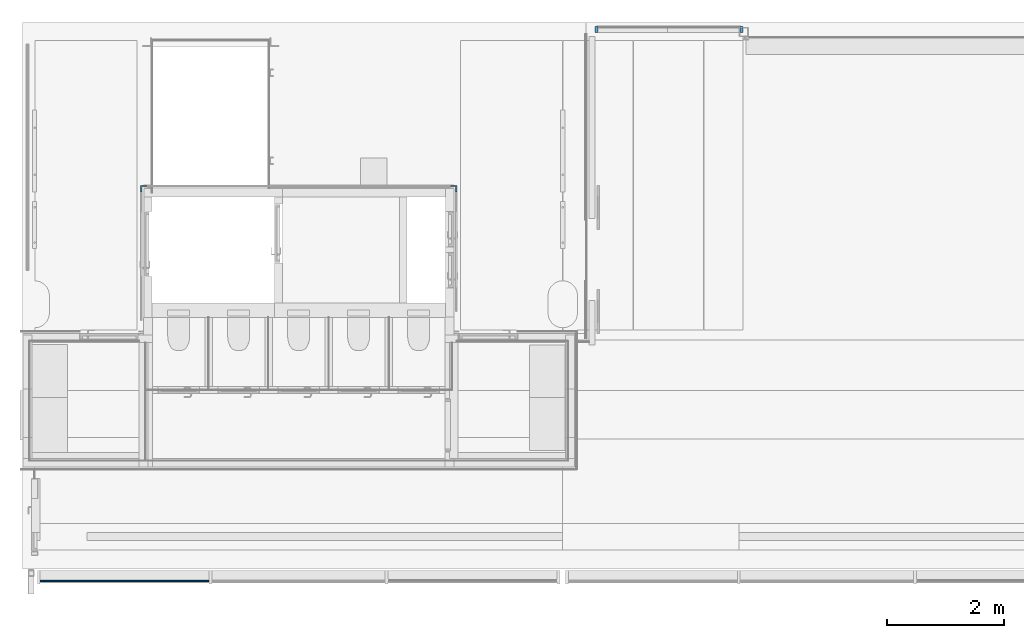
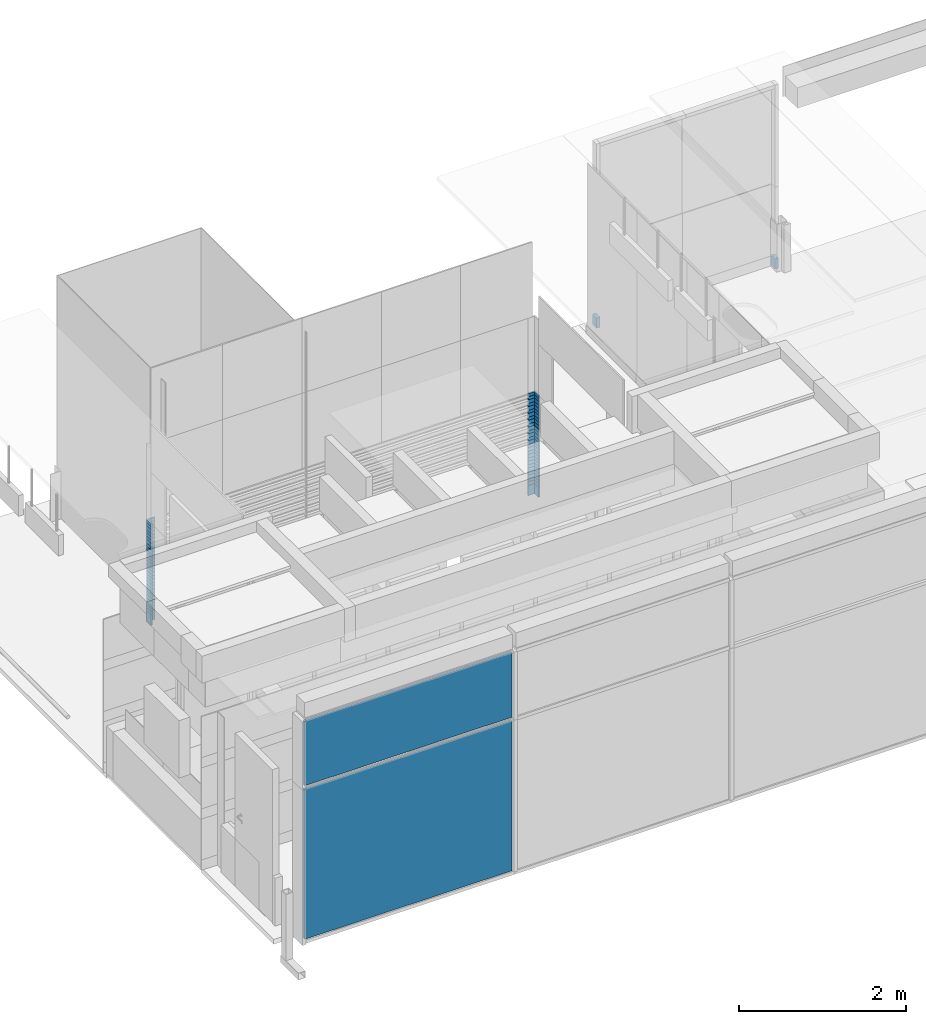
# One storey, part 6 of 26: 58 members, 2 plates, 3 elements without a shape of their own.
"""IFC2X3 building model written with IfcOpenShell, lengths in millimetres."""

from ifc_helpers import new_model, entity, si_unit, converted_unit, derived_unit, direction, frame, origin, origin_with_axes, origin_2d_with_axis, place, context, subcontext, project, spatial, polyline, rectangle, outline, extrude, source, transform, mapped, material, type_object, element, aggregate, save


model = new_model("IFC2X3")

# Units and contexts
model_context = context("Model", 3, precision=0.01, world=frame((0.0, 4.29681676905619e-09, 0.0)), true_north=direction((4.01073788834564e-13, 1.0)))
plan_context = context("Plan", 3, precision=0.01, world=frame((0.0, 4.29681676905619e-09, 0.0)), true_north=direction((4.01073788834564e-13, 1.0)))
body_context = subcontext(model_context, "Body", "Model", "MODEL_VIEW")
ifc_project = project(units=[converted_unit("PLANEANGLEUNIT", "DEGREE", entity("IfcPositiveLengthMeasure", 0.0174532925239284), si_unit("PLANEANGLEUNIT", "RADIAN"), dimensions=[0, 0, 0, 0, 0, 0, 0]), si_unit("AREAUNIT", "SQUARE_METRE"), si_unit("LENGTHUNIT", "METRE", prefix="MILLI"), si_unit("MASSUNIT", "GRAM", prefix="KILO"), si_unit("POWERUNIT", "WATT"), si_unit("PRESSUREUNIT", "PASCAL", prefix="KILO"), si_unit("FORCEUNIT", "NEWTON", prefix="KILO"), si_unit("ELECTRICVOLTAGEUNIT", "VOLT"), si_unit("ELECTRICCURRENTUNIT", "AMPERE"), si_unit("THERMODYNAMICTEMPERATUREUNIT", "DEGREE_CELSIUS"), si_unit("TIMEUNIT", "SECOND"), si_unit("VOLUMEUNIT", "CUBIC_METRE"), derived_unit("LINEARVELOCITYUNIT", [(si_unit("LENGTHUNIT", "METRE"), 1), (si_unit("TIMEUNIT", "SECOND"), -1)]), derived_unit("VOLUMETRICFLOWRATEUNIT", [(si_unit("VOLUMEUNIT", "CUBIC_METRE"), 1), (si_unit("TIMEUNIT", "SECOND"), -1)]), derived_unit("THERMALTRANSMITTANCEUNIT", [(si_unit("POWERUNIT", "WATT"), 1), (si_unit("THERMODYNAMICTEMPERATUREUNIT", "KELVIN"), -1), (si_unit("AREAUNIT", "SQUARE_METRE"), -1)]), derived_unit("SOUNDPRESSUREUNIT", [(si_unit("PRESSUREUNIT", "PASCAL"), 1)])], contexts=[model_context, plan_context])

# Site, building, storey
site_placement = place(None, origin_with_axes())
site = spatial("IfcSite", under=ifc_project, at=site_placement, Name="ENGM", CompositionType="ELEMENT")
building_placement = place(site_placement, origin_with_axes())
building = spatial("IfcBuilding", under=site, at=building_placement, Name="TG", CompositionType="ELEMENT")
storey_placement = place(building_placement, frame((0.0, 0.0, 210200.0), z_axis=(0.0, 0.0, 1.0), x_axis=(1.0, 0.0, 0.0)))
storey = spatial("IfcBuildingStorey", under=building, at=storey_placement, Name="Nivå F - 0,7 m", CompositionType="ELEMENT", Elevation=210200.0)

# Curtain wall, members
curtain_wall_type_1 = type_object("IfcCurtainWallType", Name="Curtain Wall:A245 - BIM av T1 - IMK 20mm - Offset 30mm", PredefinedType="NOTDEFINED")
curtain_wall_1_placement = place(storey_placement, frame((0.0, 0.0, -210200.0), z_axis=(0.0, 0.0, 1.0), x_axis=(1.0, 0.0, 0.0)))
curtain_wall_1 = element("IfcCurtainWall", 1, at=curtain_wall_1_placement, inside=storey, type_object=curtain_wall_type_1, Name="Curtain Wall:A245 - BIM av T1 - IMK 20mm - Offset 30mm", ObjectType="Curtain Wall:A245 - BIM av T1 - IMK 20mm - Offset 30mm")
ifc_material_1 = material(Name="Metal - Steel")
member_type_1 = type_object("IfcMemberType", Name="L Corner Mullion:A233 - Sprosse - 20 x 100 mm", PredefinedType="MULLION", material=ifc_material_1)
shared_shape_1 = source(origin(), body_context, "Body", "SweptSolid", [
    extrude(outline(polyline([(-43.3333333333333, -66.6666666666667), (-23.3333333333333, -66.6666666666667), (-23.3333333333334, 23.3333333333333), (66.6666666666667, 23.3333333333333), (66.6666666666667, 43.3333333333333), (-43.3333333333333, 43.3333333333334), (-43.3333333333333, -66.6666666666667)])), frame((6.66666666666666, -6.66666666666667, -45.0), z_axis=(0.0, 0.0, 1.0), x_axis=(-1.0, 0.0, 0.0)), (0.0, 0.0, 1.0), 45.0000000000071),
])
member_1_placement = place(curtain_wall_1_placement, frame((323855.000000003, 464677.272716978, 211695.0), z_axis=(0.0, 0.0, 1.0), x_axis=(-1.0, 0.0, 0.0)))
member_1 = element("IfcMember", 2, at=member_1_placement, type_object=member_type_1, material=ifc_material_1, Name="L Corner Mullion:A233 - Sprosse - 20 x 100 mm", ObjectType="L Corner Mullion:A233 - Sprosse - 20 x 100 mm", context=body_context, shape_type="MappedRepresentation", body=[
    mapped(shared_shape_1, transform((0.0, 0.0, 0.0), scale=1.0)),
])
member_2_placement = place(curtain_wall_1_placement, frame((323855.000000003, 464677.272716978, 210450.0), z_axis=(0.0, 0.0, 1.0), x_axis=(-1.0, 0.0, 0.0)))
member_2 = element("IfcMember", 3, at=member_2_placement, type_object=member_type_1, material=ifc_material_1, Name="L Corner Mullion:A233 - Sprosse - 20 x 100 mm", ObjectType="L Corner Mullion:A233 - Sprosse - 20 x 100 mm", context=body_context, shape_type="MappedRepresentation", body=[
    mapped(shared_shape_1, transform((0.0, 0.0, 0.0), scale=1.0)),
])
member_3_placement = place(curtain_wall_1_placement, frame((323855.000000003, 464677.272716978, 210550.0), z_axis=(0.0, 0.0, 1.0), x_axis=(-1.0, 0.0, 0.0)))
member_3 = element("IfcMember", 4, at=member_3_placement, type_object=member_type_1, material=ifc_material_1, Name="L Corner Mullion:A233 - Sprosse - 20 x 100 mm", ObjectType="L Corner Mullion:A233 - Sprosse - 20 x 100 mm", context=body_context, shape_type="MappedRepresentation", body=[
    mapped(shared_shape_1, transform((0.0, 0.0, 0.0), scale=1.0)),
])
member_4_placement = place(curtain_wall_1_placement, frame((323855.000000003, 464677.272716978, 210650.0), z_axis=(0.0, 0.0, 1.0), x_axis=(-1.0, 0.0, 0.0)))
member_4 = element("IfcMember", 5, at=member_4_placement, type_object=member_type_1, material=ifc_material_1, Name="L Corner Mullion:A233 - Sprosse - 20 x 100 mm", ObjectType="L Corner Mullion:A233 - Sprosse - 20 x 100 mm", context=body_context, shape_type="MappedRepresentation", body=[
    mapped(shared_shape_1, transform((0.0, 0.0, 0.0), scale=1.0)),
])
member_5_placement = place(curtain_wall_1_placement, frame((323855.000000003, 464677.272716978, 210850.0), z_axis=(0.0, 0.0, 1.0), x_axis=(-1.0, 0.0, 0.0)))
member_5 = element("IfcMember", 6, at=member_5_placement, type_object=member_type_1, material=ifc_material_1, Name="L Corner Mullion:A233 - Sprosse - 20 x 100 mm", ObjectType="L Corner Mullion:A233 - Sprosse - 20 x 100 mm", context=body_context, shape_type="MappedRepresentation", body=[
    mapped(shared_shape_1, transform((0.0, 0.0, 0.0), scale=1.0)),
])
member_6_placement = place(curtain_wall_1_placement, frame((323855.000000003, 464677.272716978, 210950.0), z_axis=(0.0, 0.0, 1.0), x_axis=(-1.0, 0.0, 0.0)))
member_6 = element("IfcMember", 7, at=member_6_placement, type_object=member_type_1, material=ifc_material_1, Name="L Corner Mullion:A233 - Sprosse - 20 x 100 mm", ObjectType="L Corner Mullion:A233 - Sprosse - 20 x 100 mm", context=body_context, shape_type="MappedRepresentation", body=[
    mapped(shared_shape_1, transform((0.0, 0.0, 0.0), scale=1.0)),
])
member_7_placement = place(curtain_wall_1_placement, frame((323855.000000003, 464677.272716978, 210750.0), z_axis=(0.0, 0.0, 1.0), x_axis=(-1.0, 0.0, 0.0)))
member_7 = element("IfcMember", 8, at=member_7_placement, type_object=member_type_1, material=ifc_material_1, Name="L Corner Mullion:A233 - Sprosse - 20 x 100 mm", ObjectType="L Corner Mullion:A233 - Sprosse - 20 x 100 mm", context=body_context, shape_type="MappedRepresentation", body=[
    mapped(shared_shape_1, transform((0.0, 0.0, 0.0), scale=1.0)),
])
member_8_placement = place(curtain_wall_1_placement, frame((323855.000000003, 464677.272716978, 211050.0), z_axis=(0.0, 0.0, 1.0), x_axis=(-1.0, 0.0, 0.0)))
member_8 = element("IfcMember", 9, at=member_8_placement, type_object=member_type_1, material=ifc_material_1, Name="L Corner Mullion:A233 - Sprosse - 20 x 100 mm", ObjectType="L Corner Mullion:A233 - Sprosse - 20 x 100 mm", context=body_context, shape_type="MappedRepresentation", body=[
    mapped(shared_shape_1, transform((0.0, 0.0, 0.0), scale=1.0)),
])
member_9_placement = place(curtain_wall_1_placement, frame((323855.000000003, 464677.272716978, 211150.0), z_axis=(0.0, 0.0, 1.0), x_axis=(-1.0, 0.0, 0.0)))
member_9 = element("IfcMember", 10, at=member_9_placement, type_object=member_type_1, material=ifc_material_1, Name="L Corner Mullion:A233 - Sprosse - 20 x 100 mm", ObjectType="L Corner Mullion:A233 - Sprosse - 20 x 100 mm", context=body_context, shape_type="MappedRepresentation", body=[
    mapped(shared_shape_1, transform((0.0, 0.0, 0.0), scale=1.0)),
])
member_10_placement = place(curtain_wall_1_placement, frame((323855.000000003, 464677.272716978, 211250.0), z_axis=(0.0, 0.0, 1.0), x_axis=(-1.0, 0.0, 0.0)))
member_10 = element("IfcMember", 11, at=member_10_placement, type_object=member_type_1, material=ifc_material_1, Name="L Corner Mullion:A233 - Sprosse - 20 x 100 mm", ObjectType="L Corner Mullion:A233 - Sprosse - 20 x 100 mm", context=body_context, shape_type="MappedRepresentation", body=[
    mapped(shared_shape_1, transform((0.0, 0.0, 0.0), scale=1.0)),
])
member_11_placement = place(curtain_wall_1_placement, frame((323855.000000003, 464677.272716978, 211350.0), z_axis=(0.0, 0.0, 1.0), x_axis=(-1.0, 0.0, 0.0)))
member_11 = element("IfcMember", 12, at=member_11_placement, type_object=member_type_1, material=ifc_material_1, Name="L Corner Mullion:A233 - Sprosse - 20 x 100 mm", ObjectType="L Corner Mullion:A233 - Sprosse - 20 x 100 mm", context=body_context, shape_type="MappedRepresentation", body=[
    mapped(shared_shape_1, transform((0.0, 0.0, 0.0), scale=1.0)),
])
member_12_placement = place(curtain_wall_1_placement, frame((323855.000000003, 464677.272716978, 211450.0), z_axis=(0.0, 0.0, 1.0), x_axis=(-1.0, 0.0, 0.0)))
member_12 = element("IfcMember", 13, at=member_12_placement, type_object=member_type_1, material=ifc_material_1, Name="L Corner Mullion:A233 - Sprosse - 20 x 100 mm", ObjectType="L Corner Mullion:A233 - Sprosse - 20 x 100 mm", context=body_context, shape_type="MappedRepresentation", body=[
    mapped(shared_shape_1, transform((0.0, 0.0, 0.0), scale=1.0)),
])
member_13_placement = place(curtain_wall_1_placement, frame((323855.000000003, 464677.272716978, 211550.0), z_axis=(0.0, 0.0, 1.0), x_axis=(-1.0, 0.0, 0.0)))
member_13 = element("IfcMember", 14, at=member_13_placement, type_object=member_type_1, material=ifc_material_1, Name="L Corner Mullion:A233 - Sprosse - 20 x 100 mm", ObjectType="L Corner Mullion:A233 - Sprosse - 20 x 100 mm", context=body_context, shape_type="MappedRepresentation", body=[
    mapped(shared_shape_1, transform((0.0, 0.0, 0.0), scale=1.0)),
])
member_14_placement = place(curtain_wall_1_placement, frame((323855.000000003, 464677.272716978, 211650.0), z_axis=(0.0, 0.0, 1.0), x_axis=(-1.0, 0.0, 0.0)))
member_14 = element("IfcMember", 15, at=member_14_placement, type_object=member_type_1, material=ifc_material_1, Name="L Corner Mullion:A233 - Sprosse - 20 x 100 mm", ObjectType="L Corner Mullion:A233 - Sprosse - 20 x 100 mm", context=body_context, shape_type="MappedRepresentation", body=[
    mapped(shared_shape_1, transform((0.0, 0.0, 0.0), scale=1.0)),
])
member_type_2 = type_object("IfcMemberType", Name="L Corner Mullion:A233 - Sprosse - 20 x 100 mm", PredefinedType="MULLION", material=ifc_material_1)
shared_shape_2 = source(origin(), body_context, "Body", "SweptSolid", [
    extrude(outline(polyline([(-43.3333333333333, -66.6666666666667), (-23.3333333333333, -66.6666666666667), (-23.3333333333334, 23.3333333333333), (66.6666666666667, 23.3333333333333), (66.6666666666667, 43.3333333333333), (-43.3333333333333, 43.3333333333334), (-43.3333333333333, -66.6666666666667)])), frame((6.66666666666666, -6.66666666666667, -150.0), z_axis=(0.0, 0.0, 1.0), x_axis=(-1.0, 0.0, 0.0)), (0.0, 0.0, 1.0), 150.000000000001),
])
member_15_placement = place(curtain_wall_1_placement, frame((323855.000000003, 464677.272716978, 210350.0), z_axis=(0.0, 0.0, 1.0), x_axis=(-1.0, 0.0, 0.0)))
member_15 = element("IfcMember", 16, at=member_15_placement, type_object=member_type_2, material=ifc_material_1, Name="L Corner Mullion:A233 - Sprosse - 20 x 100 mm", ObjectType="L Corner Mullion:A233 - Sprosse - 20 x 100 mm", context=body_context, shape_type="MappedRepresentation", body=[
    mapped(shared_shape_2, transform((0.0, 0.0, 0.0), scale=1.0)),
])
member_type_3 = type_object("IfcMemberType", Name="L Corner Mullion:A233 - Sprosse - 20 x 100 mm", PredefinedType="MULLION", material=ifc_material_1)
shared_shape_3 = source(origin(), body_context, "Body", "SweptSolid", [
    extrude(outline(polyline([(-43.3333333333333, -66.6666666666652), (-23.3333333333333, -66.6666666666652), (-23.3333333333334, 23.3333333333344), (66.6666666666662, 23.3333333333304), (66.6666666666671, 43.3333333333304), (-43.3333333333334, 43.3333333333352), (-43.3333333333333, -66.6666666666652)])), frame((6.66666666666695, -6.66666666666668, -55.0), z_axis=(0.0, 0.0, 1.0), x_axis=(-1.0, 0.0, 0.0)), (0.0, 0.0, 1.0), 55.0000000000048),
])
member_16_placement = place(curtain_wall_1_placement, frame((329145.000000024, 464677.272716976, 210350.0), z_axis=(0.0, 0.0, -1.0), x_axis=(1.0, 0.0, 0.0)))
member_16 = element("IfcMember", 17, at=member_16_placement, type_object=member_type_3, material=ifc_material_1, Name="L Corner Mullion:A233 - Sprosse - 20 x 100 mm", ObjectType="L Corner Mullion:A233 - Sprosse - 20 x 100 mm", context=body_context, shape_type="MappedRepresentation", body=[
    mapped(shared_shape_3, transform((0.0, 0.0, 0.0), scale=1.0)),
])
member_17_placement = place(curtain_wall_1_placement, frame((329145.000000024, 464677.272716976, 210450.0), z_axis=(0.0, 0.0, -1.0), x_axis=(1.0, 0.0, 0.0)))
member_17 = element("IfcMember", 18, at=member_17_placement, type_object=member_type_3, material=ifc_material_1, Name="L Corner Mullion:A233 - Sprosse - 20 x 100 mm", ObjectType="L Corner Mullion:A233 - Sprosse - 20 x 100 mm", context=body_context, shape_type="MappedRepresentation", body=[
    mapped(shared_shape_3, transform((0.0, 0.0, 0.0), scale=1.0)),
])
member_18_placement = place(curtain_wall_1_placement, frame((329145.000000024, 464677.272716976, 210550.0), z_axis=(0.0, 0.0, -1.0), x_axis=(1.0, 0.0, 0.0)))
member_18 = element("IfcMember", 19, at=member_18_placement, type_object=member_type_3, material=ifc_material_1, Name="L Corner Mullion:A233 - Sprosse - 20 x 100 mm", ObjectType="L Corner Mullion:A233 - Sprosse - 20 x 100 mm", context=body_context, shape_type="MappedRepresentation", body=[
    mapped(shared_shape_3, transform((0.0, 0.0, 0.0), scale=1.0)),
])
member_19_placement = place(curtain_wall_1_placement, frame((329145.000000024, 464677.272716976, 210650.0), z_axis=(0.0, 0.0, -1.0), x_axis=(1.0, 0.0, 0.0)))
member_19 = element("IfcMember", 20, at=member_19_placement, type_object=member_type_3, material=ifc_material_1, Name="L Corner Mullion:A233 - Sprosse - 20 x 100 mm", ObjectType="L Corner Mullion:A233 - Sprosse - 20 x 100 mm", context=body_context, shape_type="MappedRepresentation", body=[
    mapped(shared_shape_3, transform((0.0, 0.0, 0.0), scale=1.0)),
])
member_20_placement = place(curtain_wall_1_placement, frame((329145.000000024, 464677.272716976, 210850.0), z_axis=(0.0, 0.0, -1.0), x_axis=(1.0, 0.0, 0.0)))
member_20 = element("IfcMember", 21, at=member_20_placement, type_object=member_type_3, material=ifc_material_1, Name="L Corner Mullion:A233 - Sprosse - 20 x 100 mm", ObjectType="L Corner Mullion:A233 - Sprosse - 20 x 100 mm", context=body_context, shape_type="MappedRepresentation", body=[
    mapped(shared_shape_3, transform((0.0, 0.0, 0.0), scale=1.0)),
])
member_21_placement = place(curtain_wall_1_placement, frame((329145.000000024, 464677.272716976, 210950.0), z_axis=(0.0, 0.0, -1.0), x_axis=(1.0, 0.0, 0.0)))
member_21 = element("IfcMember", 22, at=member_21_placement, type_object=member_type_3, material=ifc_material_1, Name="L Corner Mullion:A233 - Sprosse - 20 x 100 mm", ObjectType="L Corner Mullion:A233 - Sprosse - 20 x 100 mm", context=body_context, shape_type="MappedRepresentation", body=[
    mapped(shared_shape_3, transform((0.0, 0.0, 0.0), scale=1.0)),
])
member_22_placement = place(curtain_wall_1_placement, frame((329145.000000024, 464677.272716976, 210750.0), z_axis=(0.0, 0.0, -1.0), x_axis=(1.0, 0.0, 0.0)))
member_22 = element("IfcMember", 23, at=member_22_placement, type_object=member_type_3, material=ifc_material_1, Name="L Corner Mullion:A233 - Sprosse - 20 x 100 mm", ObjectType="L Corner Mullion:A233 - Sprosse - 20 x 100 mm", context=body_context, shape_type="MappedRepresentation", body=[
    mapped(shared_shape_3, transform((0.0, 0.0, 0.0), scale=1.0)),
])
member_23_placement = place(curtain_wall_1_placement, frame((329145.000000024, 464677.272716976, 211050.0), z_axis=(0.0, 0.0, -1.0), x_axis=(1.0, 0.0, 0.0)))
member_23 = element("IfcMember", 24, at=member_23_placement, type_object=member_type_3, material=ifc_material_1, Name="L Corner Mullion:A233 - Sprosse - 20 x 100 mm", ObjectType="L Corner Mullion:A233 - Sprosse - 20 x 100 mm", context=body_context, shape_type="MappedRepresentation", body=[
    mapped(shared_shape_3, transform((0.0, 0.0, 0.0), scale=1.0)),
])
member_24_placement = place(curtain_wall_1_placement, frame((329145.000000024, 464677.272716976, 211150.0), z_axis=(0.0, 0.0, -1.0), x_axis=(1.0, 0.0, 0.0)))
member_24 = element("IfcMember", 25, at=member_24_placement, type_object=member_type_3, material=ifc_material_1, Name="L Corner Mullion:A233 - Sprosse - 20 x 100 mm", ObjectType="L Corner Mullion:A233 - Sprosse - 20 x 100 mm", context=body_context, shape_type="MappedRepresentation", body=[
    mapped(shared_shape_3, transform((0.0, 0.0, 0.0), scale=1.0)),
])
member_25_placement = place(curtain_wall_1_placement, frame((329145.000000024, 464677.272716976, 211250.0), z_axis=(0.0, 0.0, -1.0), x_axis=(1.0, 0.0, 0.0)))
member_25 = element("IfcMember", 26, at=member_25_placement, type_object=member_type_3, material=ifc_material_1, Name="L Corner Mullion:A233 - Sprosse - 20 x 100 mm", ObjectType="L Corner Mullion:A233 - Sprosse - 20 x 100 mm", context=body_context, shape_type="MappedRepresentation", body=[
    mapped(shared_shape_3, transform((0.0, 0.0, 0.0), scale=1.0)),
])
member_26_placement = place(curtain_wall_1_placement, frame((329145.000000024, 464677.272716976, 211350.0), z_axis=(0.0, 0.0, -1.0), x_axis=(1.0, 0.0, 0.0)))
member_26 = element("IfcMember", 27, at=member_26_placement, type_object=member_type_3, material=ifc_material_1, Name="L Corner Mullion:A233 - Sprosse - 20 x 100 mm", ObjectType="L Corner Mullion:A233 - Sprosse - 20 x 100 mm", context=body_context, shape_type="MappedRepresentation", body=[
    mapped(shared_shape_3, transform((0.0, 0.0, 0.0), scale=1.0)),
])
member_27_placement = place(curtain_wall_1_placement, frame((329145.000000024, 464677.272716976, 211450.0), z_axis=(0.0, 0.0, -1.0), x_axis=(1.0, 0.0, 0.0)))
member_27 = element("IfcMember", 28, at=member_27_placement, type_object=member_type_3, material=ifc_material_1, Name="L Corner Mullion:A233 - Sprosse - 20 x 100 mm", ObjectType="L Corner Mullion:A233 - Sprosse - 20 x 100 mm", context=body_context, shape_type="MappedRepresentation", body=[
    mapped(shared_shape_3, transform((0.0, 0.0, 0.0), scale=1.0)),
])
member_28_placement = place(curtain_wall_1_placement, frame((329145.000000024, 464677.272716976, 211550.0), z_axis=(0.0, 0.0, -1.0), x_axis=(1.0, 0.0, 0.0)))
member_28 = element("IfcMember", 29, at=member_28_placement, type_object=member_type_3, material=ifc_material_1, Name="L Corner Mullion:A233 - Sprosse - 20 x 100 mm", ObjectType="L Corner Mullion:A233 - Sprosse - 20 x 100 mm", context=body_context, shape_type="MappedRepresentation", body=[
    mapped(shared_shape_3, transform((0.0, 0.0, 0.0), scale=1.0)),
])
member_type_4 = type_object("IfcMemberType", Name="L Corner Mullion:A233 - Sprosse - 20 x 100 mm", PredefinedType="MULLION", material=ifc_material_1)
shared_shape_4 = source(origin(), body_context, "Body", "SweptSolid", [
    extrude(outline(polyline([(-43.3333333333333, -66.6666666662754), (-23.3333333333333, -66.6666666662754), (-23.3333333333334, 23.3333333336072), (66.6666666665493, 23.3333333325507), (66.666666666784, 43.3333333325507), (-43.3333333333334, 43.333333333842), (-43.3333333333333, -66.6666666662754)])), frame((6.66666666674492, -6.66666666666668, -150.0), z_axis=(0.0, 0.0, 1.0), x_axis=(-1.0, 0.0, 0.0)), (0.0, 0.0, 1.0), 150.000000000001),
])
member_29_placement = place(curtain_wall_1_placement, frame((329145.000000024, 464677.272716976, 210200.0), z_axis=(0.0, 0.0, -1.0), x_axis=(1.0, 0.0, 0.0)))
member_29 = element("IfcMember", 30, at=member_29_placement, type_object=member_type_4, material=ifc_material_1, Name="L Corner Mullion:A233 - Sprosse - 20 x 100 mm", ObjectType="L Corner Mullion:A233 - Sprosse - 20 x 100 mm", context=body_context, shape_type="MappedRepresentation", body=[
    mapped(shared_shape_4, transform((0.0, 0.0, 0.0), scale=1.0)),
])
member_type_5 = type_object("IfcMemberType", Name="L Corner Mullion:A233 - Sprosse - 20 x 100 mm", PredefinedType="MULLION", material=ifc_material_1)
shared_shape_5 = source(origin(), body_context, "Body", "SweptSolid", [
    extrude(outline(polyline([(-43.3333333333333, -66.6666666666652), (-23.3333333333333, -66.6666666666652), (-23.3333333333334, 23.3333333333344), (66.6666666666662, 23.3333333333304), (66.6666666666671, 43.3333333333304), (-43.3333333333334, 43.3333333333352), (-43.3333333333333, -66.6666666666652)])), frame((6.66666666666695, -6.66666666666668, -45.0), z_axis=(0.0, 0.0, 1.0), x_axis=(-1.0, 0.0, 0.0)), (0.0, 0.0, 1.0), 45.0000000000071),
])
member_30_placement = place(curtain_wall_1_placement, frame((329145.000000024, 464677.272716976, 210405.0), z_axis=(0.0, 0.0, -1.0), x_axis=(1.0, 0.0, 0.0)))
member_30 = element("IfcMember", 31, at=member_30_placement, type_object=member_type_5, material=ifc_material_1, Name="L Corner Mullion:A233 - Sprosse - 20 x 100 mm", ObjectType="L Corner Mullion:A233 - Sprosse - 20 x 100 mm", context=body_context, shape_type="MappedRepresentation", body=[
    mapped(shared_shape_5, transform((0.0, 0.0, 0.0), scale=1.0)),
])
member_31_placement = place(curtain_wall_1_placement, frame((329145.000000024, 464677.272716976, 210605.0), z_axis=(0.0, 0.0, -1.0), x_axis=(1.0, 0.0, 0.0)))
member_31 = element("IfcMember", 32, at=member_31_placement, type_object=member_type_5, material=ifc_material_1, Name="L Corner Mullion:A233 - Sprosse - 20 x 100 mm", ObjectType="L Corner Mullion:A233 - Sprosse - 20 x 100 mm", context=body_context, shape_type="MappedRepresentation", body=[
    mapped(shared_shape_5, transform((0.0, 0.0, 0.0), scale=1.0)),
])
member_32_placement = place(curtain_wall_1_placement, frame((329145.000000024, 464677.272716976, 210705.0), z_axis=(0.0, 0.0, -1.0), x_axis=(1.0, 0.0, 0.0)))
member_32 = element("IfcMember", 33, at=member_32_placement, type_object=member_type_5, material=ifc_material_1, Name="L Corner Mullion:A233 - Sprosse - 20 x 100 mm", ObjectType="L Corner Mullion:A233 - Sprosse - 20 x 100 mm", context=body_context, shape_type="MappedRepresentation", body=[
    mapped(shared_shape_5, transform((0.0, 0.0, 0.0), scale=1.0)),
])
member_33_placement = place(curtain_wall_1_placement, frame((329145.000000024, 464677.272716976, 210505.0), z_axis=(0.0, 0.0, -1.0), x_axis=(1.0, 0.0, 0.0)))
member_33 = element("IfcMember", 34, at=member_33_placement, type_object=member_type_5, material=ifc_material_1, Name="L Corner Mullion:A233 - Sprosse - 20 x 100 mm", ObjectType="L Corner Mullion:A233 - Sprosse - 20 x 100 mm", context=body_context, shape_type="MappedRepresentation", body=[
    mapped(shared_shape_5, transform((0.0, 0.0, 0.0), scale=1.0)),
])
member_34_placement = place(curtain_wall_1_placement, frame((329145.000000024, 464677.272716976, 210805.0), z_axis=(0.0, 0.0, -1.0), x_axis=(1.0, 0.0, 0.0)))
member_34 = element("IfcMember", 35, at=member_34_placement, type_object=member_type_5, material=ifc_material_1, Name="L Corner Mullion:A233 - Sprosse - 20 x 100 mm", ObjectType="L Corner Mullion:A233 - Sprosse - 20 x 100 mm", context=body_context, shape_type="MappedRepresentation", body=[
    mapped(shared_shape_5, transform((0.0, 0.0, 0.0), scale=1.0)),
])
member_35_placement = place(curtain_wall_1_placement, frame((329145.000000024, 464677.272716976, 210905.0), z_axis=(0.0, 0.0, -1.0), x_axis=(1.0, 0.0, 0.0)))
member_35 = element("IfcMember", 36, at=member_35_placement, type_object=member_type_5, material=ifc_material_1, Name="L Corner Mullion:A233 - Sprosse - 20 x 100 mm", ObjectType="L Corner Mullion:A233 - Sprosse - 20 x 100 mm", context=body_context, shape_type="MappedRepresentation", body=[
    mapped(shared_shape_5, transform((0.0, 0.0, 0.0), scale=1.0)),
])
member_36_placement = place(curtain_wall_1_placement, frame((329145.000000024, 464677.272716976, 211005.0), z_axis=(0.0, 0.0, -1.0), x_axis=(1.0, 0.0, 0.0)))
member_36 = element("IfcMember", 37, at=member_36_placement, type_object=member_type_5, material=ifc_material_1, Name="L Corner Mullion:A233 - Sprosse - 20 x 100 mm", ObjectType="L Corner Mullion:A233 - Sprosse - 20 x 100 mm", context=body_context, shape_type="MappedRepresentation", body=[
    mapped(shared_shape_5, transform((0.0, 0.0, 0.0), scale=1.0)),
])
member_37_placement = place(curtain_wall_1_placement, frame((329145.000000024, 464677.272716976, 211105.0), z_axis=(0.0, 0.0, -1.0), x_axis=(1.0, 0.0, 0.0)))
member_37 = element("IfcMember", 38, at=member_37_placement, type_object=member_type_5, material=ifc_material_1, Name="L Corner Mullion:A233 - Sprosse - 20 x 100 mm", ObjectType="L Corner Mullion:A233 - Sprosse - 20 x 100 mm", context=body_context, shape_type="MappedRepresentation", body=[
    mapped(shared_shape_5, transform((0.0, 0.0, 0.0), scale=1.0)),
])
member_38_placement = place(curtain_wall_1_placement, frame((329145.000000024, 464677.272716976, 211205.0), z_axis=(0.0, 0.0, -1.0), x_axis=(1.0, 0.0, 0.0)))
member_38 = element("IfcMember", 39, at=member_38_placement, type_object=member_type_5, material=ifc_material_1, Name="L Corner Mullion:A233 - Sprosse - 20 x 100 mm", ObjectType="L Corner Mullion:A233 - Sprosse - 20 x 100 mm", context=body_context, shape_type="MappedRepresentation", body=[
    mapped(shared_shape_5, transform((0.0, 0.0, 0.0), scale=1.0)),
])
member_39_placement = place(curtain_wall_1_placement, frame((329145.000000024, 464677.272716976, 211305.0), z_axis=(0.0, 0.0, -1.0), x_axis=(1.0, 0.0, 0.0)))
member_39 = element("IfcMember", 40, at=member_39_placement, type_object=member_type_5, material=ifc_material_1, Name="L Corner Mullion:A233 - Sprosse - 20 x 100 mm", ObjectType="L Corner Mullion:A233 - Sprosse - 20 x 100 mm", context=body_context, shape_type="MappedRepresentation", body=[
    mapped(shared_shape_5, transform((0.0, 0.0, 0.0), scale=1.0)),
])
member_40_placement = place(curtain_wall_1_placement, frame((329145.000000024, 464677.272716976, 211405.0), z_axis=(0.0, 0.0, -1.0), x_axis=(1.0, 0.0, 0.0)))
member_40 = element("IfcMember", 41, at=member_40_placement, type_object=member_type_5, material=ifc_material_1, Name="L Corner Mullion:A233 - Sprosse - 20 x 100 mm", ObjectType="L Corner Mullion:A233 - Sprosse - 20 x 100 mm", context=body_context, shape_type="MappedRepresentation", body=[
    mapped(shared_shape_5, transform((0.0, 0.0, 0.0), scale=1.0)),
])
member_41_placement = place(curtain_wall_1_placement, frame((329145.000000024, 464677.272716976, 211505.0), z_axis=(0.0, 0.0, -1.0), x_axis=(1.0, 0.0, 0.0)))
member_41 = element("IfcMember", 42, at=member_41_placement, type_object=member_type_5, material=ifc_material_1, Name="L Corner Mullion:A233 - Sprosse - 20 x 100 mm", ObjectType="L Corner Mullion:A233 - Sprosse - 20 x 100 mm", context=body_context, shape_type="MappedRepresentation", body=[
    mapped(shared_shape_5, transform((0.0, 0.0, 0.0), scale=1.0)),
])
member_42_placement = place(curtain_wall_1_placement, frame((329145.000000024, 464677.272716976, 211650.0), z_axis=(0.0, 0.0, -1.0), x_axis=(1.0, 0.0, 0.0)))
member_42 = element("IfcMember", 43, at=member_42_placement, type_object=member_type_5, material=ifc_material_1, Name="L Corner Mullion:A233 - Sprosse - 20 x 100 mm", ObjectType="L Corner Mullion:A233 - Sprosse - 20 x 100 mm", context=body_context, shape_type="MappedRepresentation", body=[
    mapped(shared_shape_5, transform((0.0, 0.0, 0.0), scale=1.0)),
])
member_43_placement = place(curtain_wall_1_placement, frame((329145.000000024, 464677.272716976, 211605.0), z_axis=(0.0, 0.0, -1.0), x_axis=(1.0, 0.0, 0.0)))
member_43 = element("IfcMember", 44, at=member_43_placement, type_object=member_type_5, material=ifc_material_1, Name="L Corner Mullion:A233 - Sprosse - 20 x 100 mm", ObjectType="L Corner Mullion:A233 - Sprosse - 20 x 100 mm", context=body_context, shape_type="MappedRepresentation", body=[
    mapped(shared_shape_5, transform((0.0, 0.0, 0.0), scale=1.0)),
])
member_type_6 = type_object("IfcMemberType", Name="L Corner Mullion:A233 - Sprosse - 20 x 100 mm", PredefinedType="MULLION", material=ifc_material_1)
shared_shape_6 = source(origin(), body_context, "Body", "SweptSolid", [
    extrude(outline(polyline([(-43.3333333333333, -66.6666666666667), (-23.3333333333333, -66.6666666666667), (-23.3333333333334, 23.3333333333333), (66.6666666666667, 23.3333333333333), (66.6666666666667, 43.3333333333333), (-43.3333333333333, 43.3333333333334), (-43.3333333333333, -66.6666666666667)])), frame((6.66666666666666, -6.66666666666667, -55.0), z_axis=(0.0, 0.0, 1.0), x_axis=(-1.0, 0.0, 0.0)), (0.0, 0.0, 1.0), 55.0000000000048),
])
member_44_placement = place(curtain_wall_1_placement, frame((323855.000000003, 464677.272716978, 210405.0), z_axis=(0.0, 0.0, 1.0), x_axis=(-1.0, 0.0, 0.0)))
member_44 = element("IfcMember", 45, at=member_44_placement, type_object=member_type_6, material=ifc_material_1, Name="L Corner Mullion:A233 - Sprosse - 20 x 100 mm", ObjectType="L Corner Mullion:A233 - Sprosse - 20 x 100 mm", context=body_context, shape_type="MappedRepresentation", body=[
    mapped(shared_shape_6, transform((0.0, 0.0, 0.0), scale=1.0)),
])
member_45_placement = place(curtain_wall_1_placement, frame((323855.000000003, 464677.272716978, 210605.0), z_axis=(0.0, 0.0, 1.0), x_axis=(-1.0, 0.0, 0.0)))
member_45 = element("IfcMember", 46, at=member_45_placement, type_object=member_type_6, material=ifc_material_1, Name="L Corner Mullion:A233 - Sprosse - 20 x 100 mm", ObjectType="L Corner Mullion:A233 - Sprosse - 20 x 100 mm", context=body_context, shape_type="MappedRepresentation", body=[
    mapped(shared_shape_6, transform((0.0, 0.0, 0.0), scale=1.0)),
])
member_46_placement = place(curtain_wall_1_placement, frame((323855.000000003, 464677.272716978, 210705.0), z_axis=(0.0, 0.0, 1.0), x_axis=(-1.0, 0.0, 0.0)))
member_46 = element("IfcMember", 47, at=member_46_placement, type_object=member_type_6, material=ifc_material_1, Name="L Corner Mullion:A233 - Sprosse - 20 x 100 mm", ObjectType="L Corner Mullion:A233 - Sprosse - 20 x 100 mm", context=body_context, shape_type="MappedRepresentation", body=[
    mapped(shared_shape_6, transform((0.0, 0.0, 0.0), scale=1.0)),
])
member_47_placement = place(curtain_wall_1_placement, frame((323855.000000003, 464677.272716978, 210505.0), z_axis=(0.0, 0.0, 1.0), x_axis=(-1.0, 0.0, 0.0)))
member_47 = element("IfcMember", 48, at=member_47_placement, type_object=member_type_6, material=ifc_material_1, Name="L Corner Mullion:A233 - Sprosse - 20 x 100 mm", ObjectType="L Corner Mullion:A233 - Sprosse - 20 x 100 mm", context=body_context, shape_type="MappedRepresentation", body=[
    mapped(shared_shape_6, transform((0.0, 0.0, 0.0), scale=1.0)),
])
member_48_placement = place(curtain_wall_1_placement, frame((323855.000000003, 464677.272716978, 210805.0), z_axis=(0.0, 0.0, 1.0), x_axis=(-1.0, 0.0, 0.0)))
member_48 = element("IfcMember", 49, at=member_48_placement, type_object=member_type_6, material=ifc_material_1, Name="L Corner Mullion:A233 - Sprosse - 20 x 100 mm", ObjectType="L Corner Mullion:A233 - Sprosse - 20 x 100 mm", context=body_context, shape_type="MappedRepresentation", body=[
    mapped(shared_shape_6, transform((0.0, 0.0, 0.0), scale=1.0)),
])
member_49_placement = place(curtain_wall_1_placement, frame((323855.000000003, 464677.272716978, 210905.0), z_axis=(0.0, 0.0, 1.0), x_axis=(-1.0, 0.0, 0.0)))
member_49 = element("IfcMember", 50, at=member_49_placement, type_object=member_type_6, material=ifc_material_1, Name="L Corner Mullion:A233 - Sprosse - 20 x 100 mm", ObjectType="L Corner Mullion:A233 - Sprosse - 20 x 100 mm", context=body_context, shape_type="MappedRepresentation", body=[
    mapped(shared_shape_6, transform((0.0, 0.0, 0.0), scale=1.0)),
])
member_50_placement = place(curtain_wall_1_placement, frame((323855.000000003, 464677.272716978, 211005.0), z_axis=(0.0, 0.0, 1.0), x_axis=(-1.0, 0.0, 0.0)))
member_50 = element("IfcMember", 51, at=member_50_placement, type_object=member_type_6, material=ifc_material_1, Name="L Corner Mullion:A233 - Sprosse - 20 x 100 mm", ObjectType="L Corner Mullion:A233 - Sprosse - 20 x 100 mm", context=body_context, shape_type="MappedRepresentation", body=[
    mapped(shared_shape_6, transform((0.0, 0.0, 0.0), scale=1.0)),
])
member_51_placement = place(curtain_wall_1_placement, frame((323855.000000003, 464677.272716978, 211105.0), z_axis=(0.0, 0.0, 1.0), x_axis=(-1.0, 0.0, 0.0)))
member_51 = element("IfcMember", 52, at=member_51_placement, type_object=member_type_6, material=ifc_material_1, Name="L Corner Mullion:A233 - Sprosse - 20 x 100 mm", ObjectType="L Corner Mullion:A233 - Sprosse - 20 x 100 mm", context=body_context, shape_type="MappedRepresentation", body=[
    mapped(shared_shape_6, transform((0.0, 0.0, 0.0), scale=1.0)),
])
member_52_placement = place(curtain_wall_1_placement, frame((323855.000000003, 464677.272716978, 211205.0), z_axis=(0.0, 0.0, 1.0), x_axis=(-1.0, 0.0, 0.0)))
member_52 = element("IfcMember", 53, at=member_52_placement, type_object=member_type_6, material=ifc_material_1, Name="L Corner Mullion:A233 - Sprosse - 20 x 100 mm", ObjectType="L Corner Mullion:A233 - Sprosse - 20 x 100 mm", context=body_context, shape_type="MappedRepresentation", body=[
    mapped(shared_shape_6, transform((0.0, 0.0, 0.0), scale=1.0)),
])
member_53_placement = place(curtain_wall_1_placement, frame((323855.000000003, 464677.272716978, 211305.0), z_axis=(0.0, 0.0, 1.0), x_axis=(-1.0, 0.0, 0.0)))
member_53 = element("IfcMember", 54, at=member_53_placement, type_object=member_type_6, material=ifc_material_1, Name="L Corner Mullion:A233 - Sprosse - 20 x 100 mm", ObjectType="L Corner Mullion:A233 - Sprosse - 20 x 100 mm", context=body_context, shape_type="MappedRepresentation", body=[
    mapped(shared_shape_6, transform((0.0, 0.0, 0.0), scale=1.0)),
])
member_54_placement = place(curtain_wall_1_placement, frame((323855.000000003, 464677.272716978, 211405.0), z_axis=(0.0, 0.0, 1.0), x_axis=(-1.0, 0.0, 0.0)))
member_54 = element("IfcMember", 55, at=member_54_placement, type_object=member_type_6, material=ifc_material_1, Name="L Corner Mullion:A233 - Sprosse - 20 x 100 mm", ObjectType="L Corner Mullion:A233 - Sprosse - 20 x 100 mm", context=body_context, shape_type="MappedRepresentation", body=[
    mapped(shared_shape_6, transform((0.0, 0.0, 0.0), scale=1.0)),
])
member_55_placement = place(curtain_wall_1_placement, frame((323855.000000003, 464677.272716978, 211505.0), z_axis=(0.0, 0.0, 1.0), x_axis=(-1.0, 0.0, 0.0)))
member_55 = element("IfcMember", 56, at=member_55_placement, type_object=member_type_6, material=ifc_material_1, Name="L Corner Mullion:A233 - Sprosse - 20 x 100 mm", ObjectType="L Corner Mullion:A233 - Sprosse - 20 x 100 mm", context=body_context, shape_type="MappedRepresentation", body=[
    mapped(shared_shape_6, transform((0.0, 0.0, 0.0), scale=1.0)),
])
member_56_placement = place(curtain_wall_1_placement, frame((323855.000000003, 464677.272716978, 211605.0), z_axis=(0.0, 0.0, 1.0), x_axis=(-1.0, 0.0, 0.0)))
member_56 = element("IfcMember", 57, at=member_56_placement, type_object=member_type_6, material=ifc_material_1, Name="L Corner Mullion:A233 - Sprosse - 20 x 100 mm", ObjectType="L Corner Mullion:A233 - Sprosse - 20 x 100 mm", context=body_context, shape_type="MappedRepresentation", body=[
    mapped(shared_shape_6, transform((0.0, 0.0, 0.0), scale=1.0)),
])
aggregate(curtain_wall_1, [member_1, member_15, member_16, member_29, member_2, member_17, member_30, member_44, member_3, member_18, member_45, member_31, member_4, member_19, member_46, member_32, member_33, member_47, member_48, member_34, member_5, member_20, member_49, member_35, member_6, member_21, member_22, member_7, member_50, member_36, member_8, member_23, member_51, member_37, member_9, member_24, member_52, member_38, member_10, member_25, member_53, member_39, member_54, member_40, member_55, member_41, member_26, member_11, member_27, member_12, member_13, member_28, member_14, member_42, member_43, member_56])

curtain_wall_type_2 = type_object("IfcCurtainWallType", Name="Curtain Wall:A245 - ITK-01", PredefinedType="NOTDEFINED")
curtain_wall_2_placement = place(storey_placement, frame((0.0, 0.0, -210200.0), z_axis=(0.0, 0.0, 1.0), x_axis=(1.0, 0.0, 0.0)))
curtain_wall_2 = element("IfcCurtainWall", 58, at=curtain_wall_2_placement, inside=storey, type_object=curtain_wall_type_2, Name="Curtain Wall:A245 - ITK-01", ObjectType="Curtain Wall:A245 - ITK-01")
ifc_material_2 = material(Name="Metal - Aluminium")
member_type_7 = type_object("IfcMemberType", Name="Rectangular Mullion:A243 - UTGAAR - Innvendig - 50 x 100 mm", PredefinedType="MULLION", material=ifc_material_2)
shared_shape_7 = source(origin(), body_context, "Body", "SweptSolid", [
    extrude(rectangle(XDim=50.0, YDim=100.0, at=origin_2d_with_axis()), frame((-25.0, -50.0, -150.0), z_axis=(0.0, 0.0, 1.0), x_axis=(-1.0, 0.0, 0.0)), (0.0, 0.0, 1.0), 150.000000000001),
])
member_57_placement = place(curtain_wall_2_placement, frame((331548.69226286, 467431.499999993, 210200.0), z_axis=(0.0, 0.0, -1.0), x_axis=(-1.0, 0.0, 0.0)))
member_57 = element("IfcMember", 59, at=member_57_placement, type_object=member_type_7, material=ifc_material_2, Name="Rectangular Mullion:A243 - UTGAAR - Innvendig - 50 x 100 mm", ObjectType="Rectangular Mullion:A243 - UTGAAR - Innvendig - 50 x 100 mm", context=body_context, shape_type="MappedRepresentation", body=[
    mapped(shared_shape_7, transform((0.0, 0.0, 0.0), scale=1.0)),
])
member_type_8 = type_object("IfcMemberType", Name="Rectangular Mullion:A243 - UTGAAR - Innvendig - 50 x 100 mm", PredefinedType="MULLION", material=ifc_material_2)
member_58_placement = place(curtain_wall_2_placement, frame((334073.454194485, 467431.499999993, 210350.0), z_axis=(0.0, 0.0, 1.0), x_axis=(1.0, 0.0, 0.0)))
member_58 = element("IfcMember", 60, at=member_58_placement, type_object=member_type_8, material=ifc_material_2, Name="Rectangular Mullion:A243 - UTGAAR - Innvendig - 50 x 100 mm", ObjectType="Rectangular Mullion:A243 - UTGAAR - Innvendig - 50 x 100 mm", context=body_context, shape_type="MappedRepresentation", body=[
    mapped(shared_shape_7, transform((0.0, 0.0, 0.0), scale=1.0)),
])
aggregate(curtain_wall_2, [member_57, member_58])

# Curtain wall, plates
curtain_wall_type_3 = type_object("IfcCurtainWallType", Name="Curtain Wall:A232 - UGV - Glass 30 mm", PredefinedType="NOTDEFINED")
curtain_wall_3_placement = place(storey_placement, frame((0.0, 0.0, -210200.0), z_axis=(0.0, 0.0, 1.0), x_axis=(1.0, 0.0, 0.0)))
curtain_wall_3 = element("IfcCurtainWall", 61, at=curtain_wall_3_placement, inside=storey, type_object=curtain_wall_type_3, Name="Curtain Wall:A232 - UGV - Glass 30 mm", ObjectType="Curtain Wall:A232 - UGV - Glass 30 mm")
ifc_material_3 = material(Name="Glass (Avinor)")
plate_type_1 = type_object("IfcPlateType", Name="System Panel:A234 - Glass - 30 mm", PredefinedType="CURTAIN_PANEL", material=ifc_material_3)
shared_shape_8 = source(origin(), body_context, "Body", "SweptSolid", [
    extrude(rectangle(XDim=30.0, YDim=2880.0, at=origin_2d_with_axis()), frame((0.0, 15.0, 0.0), z_axis=(0.0, 0.0, 1.0), x_axis=(0.0, 1.0, 0.0)), (0.0, 0.0, 1.0), 2200.0),
])
plate_1_placement = place(curtain_wall_3_placement, frame((323534.725000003, 458000.000000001, 210230.0), z_axis=(0.0, 0.0, 1.0), x_axis=(-1.0, 0.0, 0.0)))
plate_1 = element("IfcPlate", 62, at=plate_1_placement, type_object=plate_type_1, material=ifc_material_3, Name="System Panel:A234 - Glass - 30 mm", ObjectType="System Panel:A234 - Glass - 30 mm", context=body_context, shape_type="MappedRepresentation", body=[
    mapped(shared_shape_8, transform((0.0, 0.0, 0.0), scale=1.0)),
])
plate_type_2 = type_object("IfcPlateType", Name="System Panel:A234 - Glass - 30 mm", PredefinedType="CURTAIN_PANEL", material=ifc_material_3)
shared_shape_9 = source(origin(), body_context, "Body", "SweptSolid", [
    extrude(rectangle(XDim=30.0, YDim=2880.0, at=origin_2d_with_axis()), frame((0.0, 15.0, 0.0), z_axis=(0.0, 0.0, 1.0), x_axis=(0.0, 1.0, 0.0)), (0.0, 0.0, 1.0), 950.000000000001),
])
plate_2_placement = place(curtain_wall_3_placement, frame((323534.725000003, 458000.000000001, 212480.0), z_axis=(0.0, 0.0, 1.0), x_axis=(-1.0, 0.0, 0.0)))
plate_2 = element("IfcPlate", 63, at=plate_2_placement, type_object=plate_type_2, material=ifc_material_3, Name="System Panel:A234 - Glass - 30 mm", ObjectType="System Panel:A234 - Glass - 30 mm", context=body_context, shape_type="MappedRepresentation", body=[
    mapped(shared_shape_9, transform((0.0, 0.0, 0.0), scale=1.0)),
])
aggregate(curtain_wall_3, [plate_1, plate_2])

save(model, "model.ifc")
